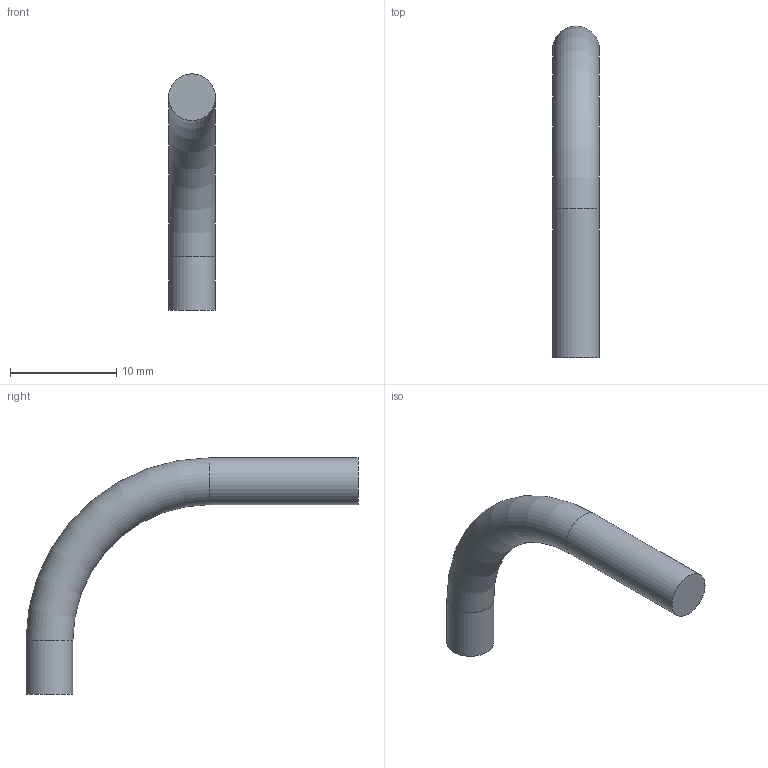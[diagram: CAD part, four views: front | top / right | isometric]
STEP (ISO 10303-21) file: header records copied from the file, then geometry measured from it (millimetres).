
FILE_DESCRIPTION(('Open CASCADE Model'),'2;1');
FILE_NAME('Open CASCADE Shape Model','2026-10-06T03:35:42',('Author'),( 'Open CASCADE'),'Open CASCADE STEP processor 7.8','Open CASCADE 7.8' ,'Unknown');
FILE_SCHEMA(('AUTOMOTIVE_DESIGN { 1 0 10303 214 1 1 1 1 }'));
Length unit declared in the file: millimetre
Products named in the file (1): Open CASCADE STEP translator 7.8 32
Bounding box: 4.4 x 31.2 x 22.2 mm (x, y, z)
Volume: 647.2 mm3; surface area: 618.7 mm2
Topology: 1 solids, 1 shells, 5 faces, 7 edges, 4 vertices
Faces by surface type: cylinder 2, plane 2, torus 1
Full cylindrical faces by diameter (mm): 4.4 x2
Entity records: 206 total; most frequent: CARTESIAN_POINT 36, DIRECTION 33, ORIENTED_EDGE 14, PCURVE 14, DEFINITIONAL_REPRESENTATION 14, AXIS2_PLACEMENT_3D 11, LINE 9, VECTOR 9
